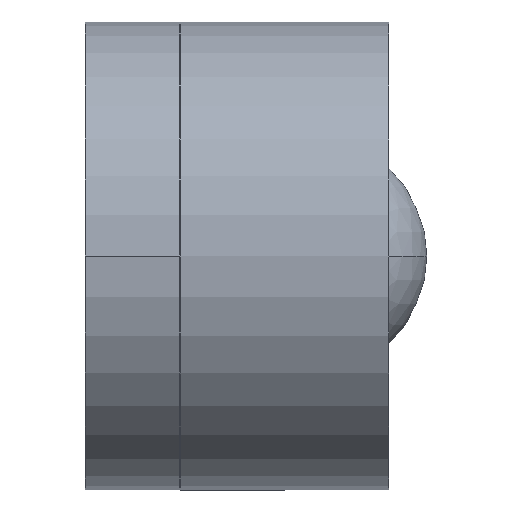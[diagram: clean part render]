
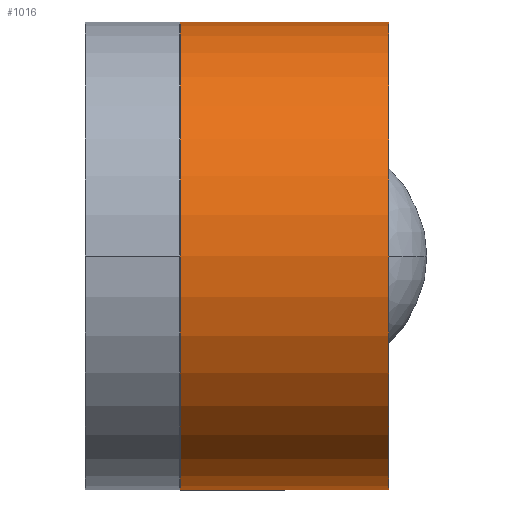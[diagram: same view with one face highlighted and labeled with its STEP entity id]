
A CAD part, left-side view. The second image highlights one B-rep face of the part: STEP entity #1016.
In plain terms, the highlighted cylindrical face has radius 37 mm (diameter 74 mm), a partial arc.
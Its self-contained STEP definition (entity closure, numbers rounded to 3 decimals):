
#19 = EDGE_CURVE ( 'NONE', #1362, #1230, #1322, .T. ) ;
#44 = EDGE_CURVE ( 'NONE', #142, #1362, #81, .T. ) ;
#81 = LINE ( 'NONE', #469, #973 ) ;
#82 = AXIS2_PLACEMENT_3D ( 'NONE', #1208, #504, #1329 ) ;
#142 = VERTEX_POINT ( 'NONE', #723 ) ;
#183 = EDGE_CURVE ( 'NONE', #142, #944, #1092, .T. ) ;
#205 = CARTESIAN_POINT ( 'NONE',  ( 0., 0., -37. ) ) ;
#241 = DIRECTION ( 'NONE',  ( 0., -1., 0. ) ) ;
#259 = CARTESIAN_POINT ( 'NONE',  ( 0., 0., 0. ) ) ;
#291 = LINE ( 'NONE', #205, #1497 ) ;
#323 = DIRECTION ( 'NONE',  ( 0., -1., 0. ) ) ;
#347 = CYLINDRICAL_SURFACE ( 'NONE', #1161, 37. ) ;
#359 = DIRECTION ( 'NONE',  ( 0., -1., 0. ) ) ;
#373 = DIRECTION ( 'NONE',  ( 0., -1., 0. ) ) ;
#469 = CARTESIAN_POINT ( 'NONE',  ( 0., 0., 37. ) ) ;
#504 = DIRECTION ( 'NONE',  ( 0., -1., 0. ) ) ;
#579 = AXIS2_PLACEMENT_3D ( 'NONE', #942, #241, #1051 ) ;
#689 = ORIENTED_EDGE ( 'NONE', *, *, #19, .F. ) ;
#723 = CARTESIAN_POINT ( 'NONE',  ( 0., 39., 37. ) ) ;
#726 = FACE_OUTER_BOUND ( 'NONE', #1088, .T. ) ;
#818 = EDGE_CURVE ( 'NONE', #944, #1230, #291, .T. ) ;
#914 = CARTESIAN_POINT ( 'NONE',  ( 0., 6., 37. ) ) ;
#924 = ORIENTED_EDGE ( 'NONE', *, *, #44, .F. ) ;
#942 = CARTESIAN_POINT ( 'NONE',  ( 0., 6., 0. ) ) ;
#944 = VERTEX_POINT ( 'NONE', #1174 ) ;
#964 = DIRECTION ( 'NONE',  ( 0., 0., -1. ) ) ;
#973 = VECTOR ( 'NONE', #359, 1000. ) ;
#993 = CARTESIAN_POINT ( 'NONE',  ( 0., 6., -37. ) ) ;
#1016 = ADVANCED_FACE ( 'NONE', ( #726 ), #347, .T. ) ;
#1042 = ORIENTED_EDGE ( 'NONE', *, *, #183, .T. ) ;
#1051 = DIRECTION ( 'NONE',  ( 0., 0., -1. ) ) ;
#1088 = EDGE_LOOP ( 'NONE', ( #924, #1042, #1224, #689 ) ) ;
#1092 = CIRCLE ( 'NONE', #82, 37. ) ;
#1161 = AXIS2_PLACEMENT_3D ( 'NONE', #259, #373, #964 ) ;
#1174 = CARTESIAN_POINT ( 'NONE',  ( 0., 39., -37. ) ) ;
#1208 = CARTESIAN_POINT ( 'NONE',  ( 0., 39., 0. ) ) ;
#1224 = ORIENTED_EDGE ( 'NONE', *, *, #818, .T. ) ;
#1230 = VERTEX_POINT ( 'NONE', #993 ) ;
#1322 = CIRCLE ( 'NONE', #579, 37. ) ;
#1329 = DIRECTION ( 'NONE',  ( 0., 0., -1. ) ) ;
#1362 = VERTEX_POINT ( 'NONE', #914 ) ;
#1497 = VECTOR ( 'NONE', #323, 1000. ) ;
